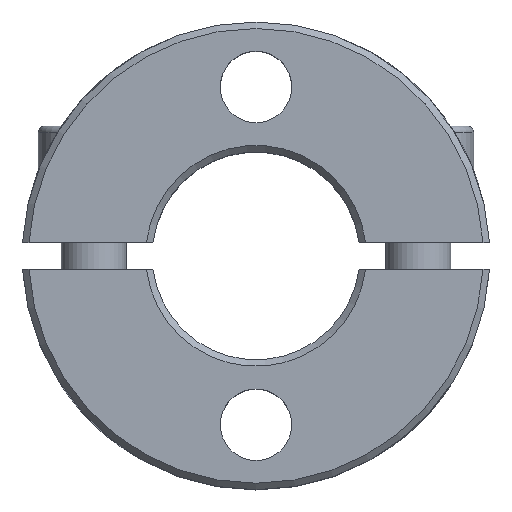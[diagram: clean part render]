
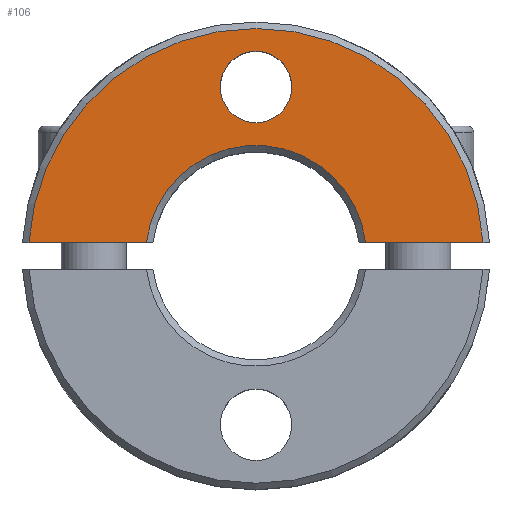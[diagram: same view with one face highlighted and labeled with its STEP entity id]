
A CAD part, top view. The second image highlights one B-rep face of the part: STEP entity #106.
In plain terms, the highlighted planar face has unit normal (0, 0, 1).
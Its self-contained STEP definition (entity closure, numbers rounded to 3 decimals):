
#106 = ADVANCED_FACE( '', ( #215, #216 ), #217, .T. );
#215 = FACE_OUTER_BOUND( '', #365, .T. );
#216 = FACE_BOUND( '', #366, .T. );
#217 = PLANE( '', #367 );
#365 = EDGE_LOOP( '', ( #638, #639, #640, #641 ) );
#366 = EDGE_LOOP( '', ( #642 ) );
#367 = AXIS2_PLACEMENT_3D( '', #643, #644, #645 );
#638 = ORIENTED_EDGE( '', *, *, #865, .F. );
#639 = ORIENTED_EDGE( '', *, *, #904, .T. );
#640 = ORIENTED_EDGE( '', *, *, #899, .F. );
#641 = ORIENTED_EDGE( '', *, *, #854, .F. );
#642 = ORIENTED_EDGE( '', *, *, #894, .T. );
#643 = CARTESIAN_POINT( '', ( 0., 8.5, 6.5 ) );
#644 = DIRECTION( '', ( 0., 0., 1. ) );
#645 = DIRECTION( '', ( 1., 0., 0. ) );
#854 = EDGE_CURVE( '', #988, #989, #990, .T. );
#865 = EDGE_CURVE( '', #1007, #988, #1009, .T. );
#894 = EDGE_CURVE( '', #1059, #1059, #1060, .F. );
#899 = EDGE_CURVE( '', #989, #1068, #1069, .T. );
#904 = EDGE_CURVE( '', #1007, #1068, #1075, .T. );
#988 = VERTEX_POINT( '', #1404 );
#989 = VERTEX_POINT( '', #1405 );
#990 = CIRCLE( '', #1406, 8.5 );
#1007 = VERTEX_POINT( '', #1437 );
#1009 = LINE( '', #1442, #1443 );
#1059 = VERTEX_POINT( '', #1563 );
#1060 = CIRCLE( '', #1564, 2.75 );
#1068 = VERTEX_POINT( '', #1573 );
#1069 = LINE( '', #1574, #1575 );
#1075 = CIRCLE( '', #1586, 17.5 );
#1404 = CARTESIAN_POINT( '', ( 8.435, 1.05, 6.5 ) );
#1405 = CARTESIAN_POINT( '', ( -8.435, 1.05, 6.5 ) );
#1406 = AXIS2_PLACEMENT_3D( '', #1716, #1717, #1718 );
#1437 = CARTESIAN_POINT( '', ( 17.468, 1.05, 6.5 ) );
#1442 = CARTESIAN_POINT( '', ( 20., 1.05, 6.5 ) );
#1443 = VECTOR( '', #1730, 1000. );
#1563 = CARTESIAN_POINT( '', ( 2.75, 13., 6.5 ) );
#1564 = AXIS2_PLACEMENT_3D( '', #1774, #1775, #1776 );
#1573 = CARTESIAN_POINT( '', ( -17.468, 1.05, 6.5 ) );
#1574 = CARTESIAN_POINT( '', ( 0., 1.05, 6.5 ) );
#1575 = VECTOR( '', #1787, 1000. );
#1586 = AXIS2_PLACEMENT_3D( '', #1793, #1794, #1795 );
#1716 = CARTESIAN_POINT( '', ( 0., 0., 6.5 ) );
#1717 = DIRECTION( '', ( 0., 0., 1. ) );
#1718 = DIRECTION( '', ( 1., 0., 0. ) );
#1730 = DIRECTION( '', ( -1., 0., 0. ) );
#1774 = CARTESIAN_POINT( '', ( 0., 13., 6.5 ) );
#1775 = DIRECTION( '', ( 0., 0., 1. ) );
#1776 = DIRECTION( '', ( 1., 0., 0. ) );
#1787 = DIRECTION( '', ( -1., 0., 0. ) );
#1793 = CARTESIAN_POINT( '', ( 0., 0., 6.5 ) );
#1794 = DIRECTION( '', ( 0., 0., 1. ) );
#1795 = DIRECTION( '', ( 1., 0., 0. ) );
